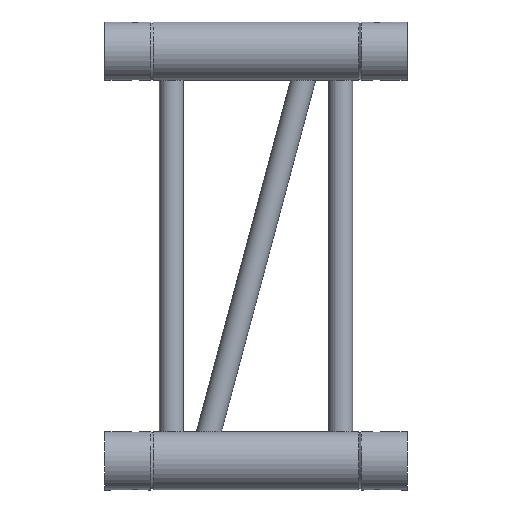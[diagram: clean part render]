
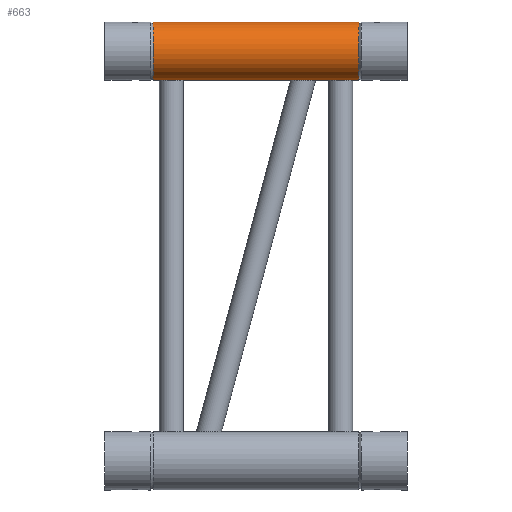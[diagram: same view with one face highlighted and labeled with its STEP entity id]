
A CAD part, top view. The second image highlights one B-rep face of the part: STEP entity #663.
In plain terms, the highlighted cylindrical face has radius 24.15 mm (diameter 48.3 mm), a full revolution.
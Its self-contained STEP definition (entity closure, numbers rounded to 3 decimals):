
#40=LINE('',#1104,#46);
#41=LINE('',#1114,#47);
#42=LINE('',#1124,#48);
#46=VECTOR('',#850,20.);
#47=VECTOR('',#865,20.706);
#48=VECTOR('',#880,20.);
#100=FACE_BOUND('',#228,.T.);
#101=FACE_BOUND('',#229,.T.);
#102=FACE_BOUND('',#230,.T.);
#103=FACE_BOUND('',#231,.T.);
#155=FACE_OUTER_BOUND('',#227,.T.);
#227=EDGE_LOOP('',(#502));
#228=EDGE_LOOP('',(#503,#504));
#229=EDGE_LOOP('',(#505,#506));
#230=EDGE_LOOP('',(#507,#508));
#231=EDGE_LOOP('',(#509));
#291=CIRCLE('',#742,24.15);
#293=CIRCLE('',#745,24.15);
#329=VERTEX_POINT('',#1102);
#330=VERTEX_POINT('',#1103);
#331=VERTEX_POINT('',#1112);
#332=VERTEX_POINT('',#1113);
#333=VERTEX_POINT('',#1122);
#334=VERTEX_POINT('',#1123);
#335=VERTEX_POINT('',#1132);
#337=VERTEX_POINT('',#1137);
#385=EDGE_CURVE('',#329,#330,#40,.T.);
#389=EDGE_CURVE('',#331,#332,#41,.T.);
#393=EDGE_CURVE('',#333,#334,#42,.T.);
#397=EDGE_CURVE('',#335,#335,#291,.T.);
#399=EDGE_CURVE('',#337,#337,#293,.T.);
#502=ORIENTED_EDGE('',*,*,#397,.T.);
#503=ORIENTED_EDGE('',*,*,#385,.T.);
#504=ORIENTED_EDGE('',*,*,#385,.F.);
#505=ORIENTED_EDGE('',*,*,#389,.T.);
#506=ORIENTED_EDGE('',*,*,#389,.F.);
#507=ORIENTED_EDGE('',*,*,#393,.T.);
#508=ORIENTED_EDGE('',*,*,#393,.F.);
#509=ORIENTED_EDGE('',*,*,#399,.T.);
#570=CYLINDRICAL_SURFACE('',#747,24.15);
#663=ADVANCED_FACE('',(#155,#100,#101,#102,#103),#570,.T.);
#742=AXIS2_PLACEMENT_3D('',#1133,#895,#896);
#745=AXIS2_PLACEMENT_3D('',#1138,#901,#902);
#747=AXIS2_PLACEMENT_3D('',#1141,#905,#906);
#850=DIRECTION('',(-1.,0.,0.));
#865=DIRECTION('',(-1.,0.,0.));
#880=DIRECTION('',(-1.,0.,0.));
#895=DIRECTION('center_axis',(-1.,0.,0.));
#896=DIRECTION('ref_axis',(0.,-0.895,-0.445));
#901=DIRECTION('center_axis',(1.,0.,0.));
#902=DIRECTION('ref_axis',(0.,-0.895,-0.445));
#905=DIRECTION('center_axis',(-1.,0.,0.));
#906=DIRECTION('ref_axis',(0.,-0.895,-0.445));
#1102=CARTESIAN_POINT('',(205.,314.85,0.));
#1103=CARTESIAN_POINT('',(185.,314.85,0.));
#1104=CARTESIAN_POINT('',(125.,314.85,0.));
#1112=CARTESIAN_POINT('',(174.299,314.85,0.));
#1113=CARTESIAN_POINT('',(153.594,314.85,0.));
#1114=CARTESIAN_POINT('',(125.,314.85,0.));
#1122=CARTESIAN_POINT('',(65.,314.85,0.));
#1123=CARTESIAN_POINT('',(45.,314.85,0.));
#1124=CARTESIAN_POINT('',(125.,314.85,0.));
#1132=CARTESIAN_POINT('',(210.,360.622,10.757));
#1133=CARTESIAN_POINT('Origin',(210.,339.,0.));
#1137=CARTESIAN_POINT('',(40.,360.622,10.757));
#1138=CARTESIAN_POINT('Origin',(40.,339.,0.));
#1141=CARTESIAN_POINT('Origin',(125.,339.,0.));
